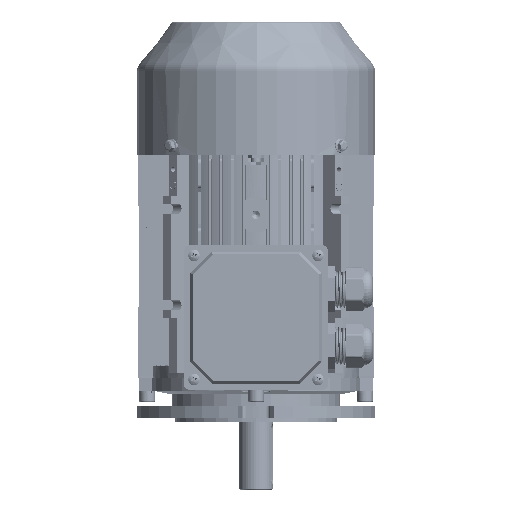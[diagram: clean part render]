
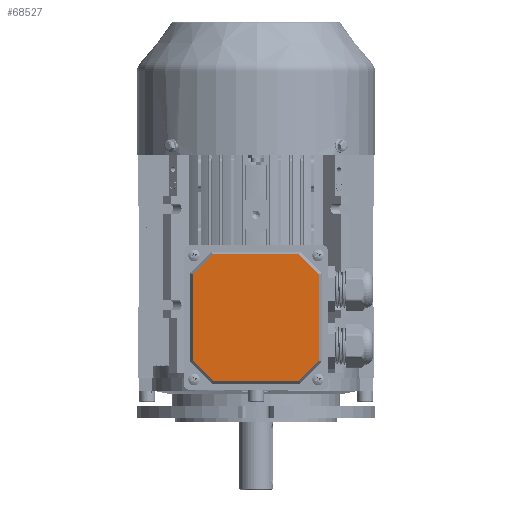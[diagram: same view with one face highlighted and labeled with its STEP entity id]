
A CAD part, top view. The second image highlights one B-rep face of the part: STEP entity #68527.
In plain terms, the highlighted planar face has unit normal (0, 0, 1) as drawn and (0, 0, -1) by its records, which use the part's own axes.
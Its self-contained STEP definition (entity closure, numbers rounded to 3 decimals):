
#1221 = ORIENTED_EDGE ( 'NONE', *, *, #93289, .F. ) ;
#1905 = DIRECTION ( 'NONE',  ( 1., 0., 0. ) ) ;
#2178 = CARTESIAN_POINT ( 'NONE',  ( -44.22, 44.22, -4. ) ) ;
#2698 = DIRECTION ( 'NONE',  ( 0., -1., 0. ) ) ;
#4228 = ORIENTED_EDGE ( 'NONE', *, *, #13253, .F. ) ;
#12611 = ORIENTED_EDGE ( 'NONE', *, *, #83347, .F. ) ;
#13253 = EDGE_CURVE ( 'NONE', #99630, #53104, #42001, .T. ) ;
#13678 = VECTOR ( 'NONE', #31130, 1000. ) ;
#15565 = CARTESIAN_POINT ( 'NONE',  ( -52.536, -35.903, -4. ) ) ;
#19599 = EDGE_CURVE ( 'NONE', #115066, #105490, #23586, .T. ) ;
#22014 = EDGE_CURVE ( 'NONE', #105490, #99630, #114699, .T. ) ;
#23586 = LINE ( 'NONE', #109761, #75486 ) ;
#28397 = CARTESIAN_POINT ( 'NONE',  ( 44.22, 44.22, -4. ) ) ;
#29883 = DIRECTION ( 'NONE',  ( 0., 1., 0. ) ) ;
#30701 = EDGE_CURVE ( 'NONE', #45588, #38222, #40989, .T. ) ;
#31044 = LINE ( 'NONE', #90735, #52726 ) ;
#31130 = DIRECTION ( 'NONE',  ( -0.707, -0.707, 0. ) ) ;
#31545 = VERTEX_POINT ( 'NONE', #104764 ) ;
#33827 = DIRECTION ( 'NONE',  ( 0.707, -0.707, 0. ) ) ;
#36549 = VERTEX_POINT ( 'NONE', #81397 ) ;
#38222 = VERTEX_POINT ( 'NONE', #44291 ) ;
#40257 = EDGE_CURVE ( 'NONE', #53104, #36549, #83220, .T. ) ;
#40407 = ORIENTED_EDGE ( 'NONE', *, *, #30701, .F. ) ;
#40989 = LINE ( 'NONE', #56947, #87202 ) ;
#42001 = LINE ( 'NONE', #58305, #109908 ) ;
#44291 = CARTESIAN_POINT ( 'NONE',  ( 52.536, 35.903, -4. ) ) ;
#45588 = VERTEX_POINT ( 'NONE', #67581 ) ;
#47746 = DIRECTION ( 'NONE',  ( 1., 0., 0. ) ) ;
#47825 = CARTESIAN_POINT ( 'NONE',  ( 0., 0., -4. ) ) ;
#51126 = LINE ( 'NONE', #103039, #94404 ) ;
#52726 = VECTOR ( 'NONE', #63312, 1000. ) ;
#53104 = VERTEX_POINT ( 'NONE', #15565 ) ;
#54435 = DIRECTION ( 'NONE',  ( -1., 0., 0. ) ) ;
#56947 = CARTESIAN_POINT ( 'NONE',  ( 52.536, 0., -4. ) ) ;
#57104 = DIRECTION ( 'NONE',  ( 0., 0., 1. ) ) ;
#58305 = CARTESIAN_POINT ( 'NONE',  ( -52.536, 0., -4. ) ) ;
#61851 = FACE_OUTER_BOUND ( 'NONE', #95889, .T. ) ;
#63312 = DIRECTION ( 'NONE',  ( 0.707, 0.707, 0. ) ) ;
#63671 = LINE ( 'NONE', #28397, #109915 ) ;
#67581 = CARTESIAN_POINT ( 'NONE',  ( 52.536, -35.903, -4. ) ) ;
#68527 = ADVANCED_FACE ( 'NONE', ( #61851 ), #112427, .F. ) ;
#74431 = EDGE_CURVE ( 'NONE', #38222, #115066, #63671, .T. ) ;
#75486 = VECTOR ( 'NONE', #54435, 1000. ) ;
#76856 = ORIENTED_EDGE ( 'NONE', *, *, #19599, .F. ) ;
#78615 = ORIENTED_EDGE ( 'NONE', *, *, #74431, .F. ) ;
#80046 = ORIENTED_EDGE ( 'NONE', *, *, #40257, .F. ) ;
#81397 = CARTESIAN_POINT ( 'NONE',  ( -35.903, -52.536, -4. ) ) ;
#83220 = LINE ( 'NONE', #98449, #107841 ) ;
#83347 = EDGE_CURVE ( 'NONE', #31545, #45588, #31044, .T. ) ;
#87202 = VECTOR ( 'NONE', #29883, 1000. ) ;
#89131 = CARTESIAN_POINT ( 'NONE',  ( -52.536, 35.903, -4. ) ) ;
#90735 = CARTESIAN_POINT ( 'NONE',  ( 44.22, -44.22, -4. ) ) ;
#93289 = EDGE_CURVE ( 'NONE', #36549, #31545, #51126, .T. ) ;
#94404 = VECTOR ( 'NONE', #47746, 1000. ) ;
#95889 = EDGE_LOOP ( 'NONE', ( #40407, #12611, #1221, #80046, #4228, #109360, #76856, #78615 ) ) ;
#96848 = CARTESIAN_POINT ( 'NONE',  ( 35.903, 52.536, -4. ) ) ;
#98173 = AXIS2_PLACEMENT_3D ( 'NONE', #47825, #57104, #1905 ) ;
#98449 = CARTESIAN_POINT ( 'NONE',  ( -44.22, -44.22, -4. ) ) ;
#99630 = VERTEX_POINT ( 'NONE', #89131 ) ;
#102257 = DIRECTION ( 'NONE',  ( -0.707, 0.707, 0. ) ) ;
#103039 = CARTESIAN_POINT ( 'NONE',  ( 0., -52.536, -4. ) ) ;
#104764 = CARTESIAN_POINT ( 'NONE',  ( 35.903, -52.536, -4. ) ) ;
#105490 = VERTEX_POINT ( 'NONE', #110253 ) ;
#107841 = VECTOR ( 'NONE', #33827, 1000. ) ;
#109360 = ORIENTED_EDGE ( 'NONE', *, *, #22014, .F. ) ;
#109761 = CARTESIAN_POINT ( 'NONE',  ( 0., 52.536, -4. ) ) ;
#109908 = VECTOR ( 'NONE', #2698, 1000. ) ;
#109915 = VECTOR ( 'NONE', #102257, 1000. ) ;
#110253 = CARTESIAN_POINT ( 'NONE',  ( -35.903, 52.536, -4. ) ) ;
#112427 = PLANE ( 'NONE',  #98173 ) ;
#114699 = LINE ( 'NONE', #2178, #13678 ) ;
#115066 = VERTEX_POINT ( 'NONE', #96848 ) ;
